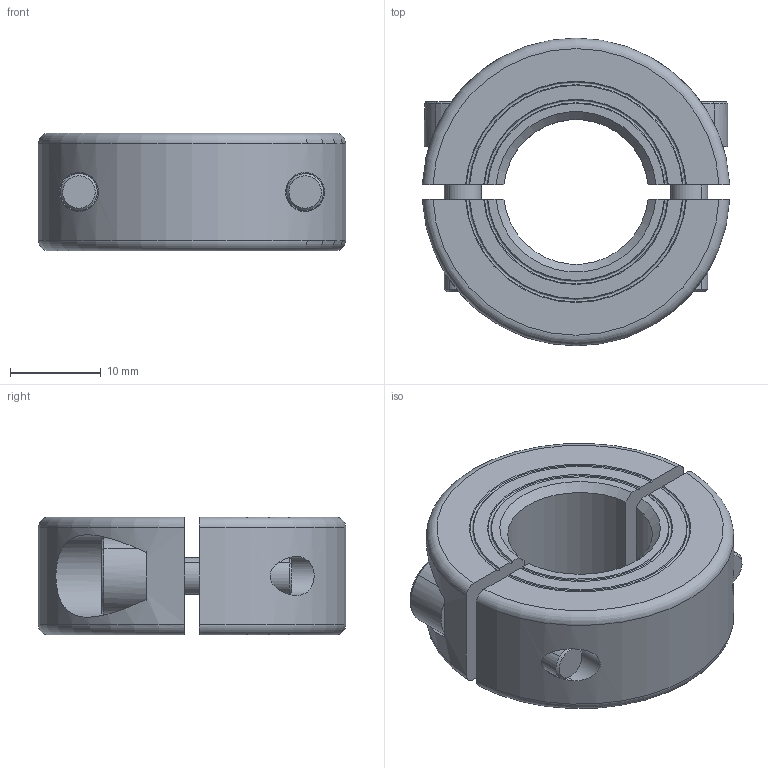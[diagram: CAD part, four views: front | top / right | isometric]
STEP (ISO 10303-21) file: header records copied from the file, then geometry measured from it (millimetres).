
FILE_DESCRIPTION((''),'2;1');
FILE_NAME('MSP-16-X','2016-09-09T',('SYSTEM'),(''),'PRO/ENGINEER BY PARAMETRIC TECHNOLOGY CORPORATION, 2015110','PRO/ENGINEER BY PARAMETRIC TECHNOLOGY CORPORATION, 2015110','');
FILE_SCHEMA(('AUTOMOTIVE_DESIGN { 1 0 10303 214 1 1 1 1 }'));
Length unit declared in the file: inch
Products named in the file (1): MSP-16-X
Bounding box: 33.96 x 34 x 13 mm (x, y, z)
Volume: 8348.8 mm3; surface area: 4989.6 mm2
Topology: 2 solids, 2 shells, 90 faces, 223 edges, 145 vertices
Faces by surface type: plane 36, cylinder 26, cone 20, torus 8
Entity records: 3610 total; most frequent: CARTESIAN_POINT 796, ORIENTED_EDGE 446, DIRECTION 430, EDGE_CURVE 223, AXIS2_PLACEMENT_3D 168, VERTEX_POINT 145, EDGE_LOOP 102, VECTOR 94
